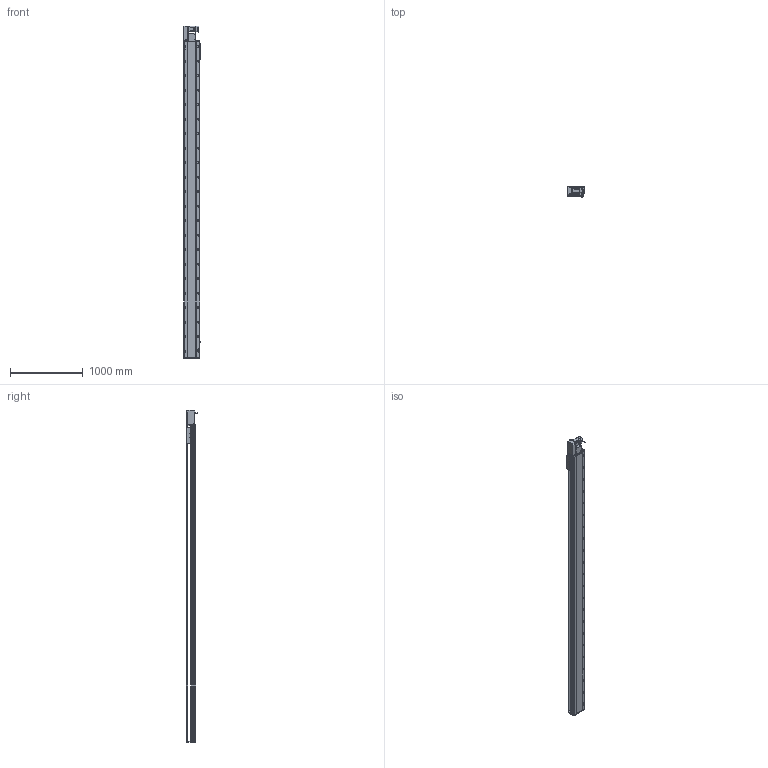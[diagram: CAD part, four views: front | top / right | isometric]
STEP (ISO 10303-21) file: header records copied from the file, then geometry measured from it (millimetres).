
FILE_DESCRIPTION (( 'STEP AP214' ), '1' );
FILE_NAME ('RTB22S-XX-4000-L-M75-C4.STEP', '2025-12-12T03:39:17', ( '' ), ( '' ), 'SwSTEP 2.0', 'SolidWorks 2018', '' );
FILE_SCHEMA (( 'AUTOMOTIVE_DESIGN' ));
Length unit declared in the file: millimetre
Products named in the file (14): RTB22S-GY-018P^RTB22S-L-々湍釱蚾饜_RTB22S-XX-XX-L-M75-C4; RTB22S-L-々湍釱蚾饜^RTB22S-XX-XX-L-M75-C4; RTB22S-GY-008-M75--萇儂啣^RTB22S-L-々湍釱蚾饜_RTB22S-XX-XX-L-M75-C4; RTB22S-GY-001耜裔^RTB22S-XX-XX-L-M75-C4; RTB22S-GY-007奻裔^RTB22S-XX-XX-L-M75-C4; RTB22S-GY-014--々湍釱^RTB22S-L-々湍釱蚾饜_RTB22S-XX-XX-L-M75-C4; RTB22S-GY-017P^RTB22S-L-々湍釱蚾饜_RTB22S-XX-XX-L-M75-C4; RTB22S-L-004賑釱^RTB22S-XX-XX-L-M75-C4; OMRON EE-SX672 传感器^RTB22S-XX-XX-L-M75-C4; RTB22S-GY-005P^RTB22S-L-々湍釱蚾饜_RTB22S-XX-XX-L-M75-C4; RTB22S-L-011菁釱^RTB22S-XX-XX-L-M75-C4; 750W萇儂^RTB22S-XX-XX-L-M75-C4; RTB22S-XX-4000-L-M75-C4; RTH22-GY-013外置感应片^RTB22S-XX-XX-L-M75-C4
Assembly tree (16 placements, depth 3):
  RTB22S-XX-4000-L-M75-C4
    RTB22S-L-011菁釱^RTB22S-XX-XX-L-M75-C4
    750W萇儂^RTB22S-XX-XX-L-M75-C4
    RTB22S-L-004賑釱^RTB22S-XX-XX-L-M75-C4
    OMRON EE-SX672 传感器^RTB22S-XX-XX-L-M75-C4  x3
    RTH22-GY-013外置感应片^RTB22S-XX-XX-L-M75-C4
    RTB22S-GY-007奻裔^RTB22S-XX-XX-L-M75-C4
    RTB22S-GY-001耜裔^RTB22S-XX-XX-L-M75-C4
    RTB22S-L-々湍釱蚾饜^RTB22S-XX-XX-L-M75-C4
      RTB22S-GY-014--々湍釱^RTB22S-L-々湍釱蚾饜_RTB22S-XX-XX-L-M75-C4
      RTB22S-GY-017P^RTB22S-L-々湍釱蚾饜_RTB22S-XX-XX-L-M75-C4  x2
      RTB22S-GY-005P^RTB22S-L-々湍釱蚾饜_RTB22S-XX-XX-L-M75-C4
      RTB22S-GY-008-M75--萇儂啣^RTB22S-L-々湍釱蚾饜_RTB22S-XX-XX-L-M75-C4
      RTB22S-GY-018P^RTB22S-L-々湍釱蚾饜_RTB22S-XX-XX-L-M75-C4
Bounding box: 238.5 x 162.7 x 4579 mm (x, y, z)
Volume: 56242580.9 mm3; surface area: 5710263.3 mm2
Topology: 15 solids, 15 shells, 2235 faces, 6086 edges, 3872 vertices
Faces by surface type: plane 943, cylinder 790, bspline 296, cone 194, sphere 8, torus 4
Entity records: 61980 total; most frequent: CARTESIAN_POINT 17244, ORIENTED_EDGE 8848, DIRECTION 8758, EDGE_CURVE 4424, AXIS2_PLACEMENT_3D 3182, VERTEX_POINT 2876, VECTOR 2394, LINE 2394
